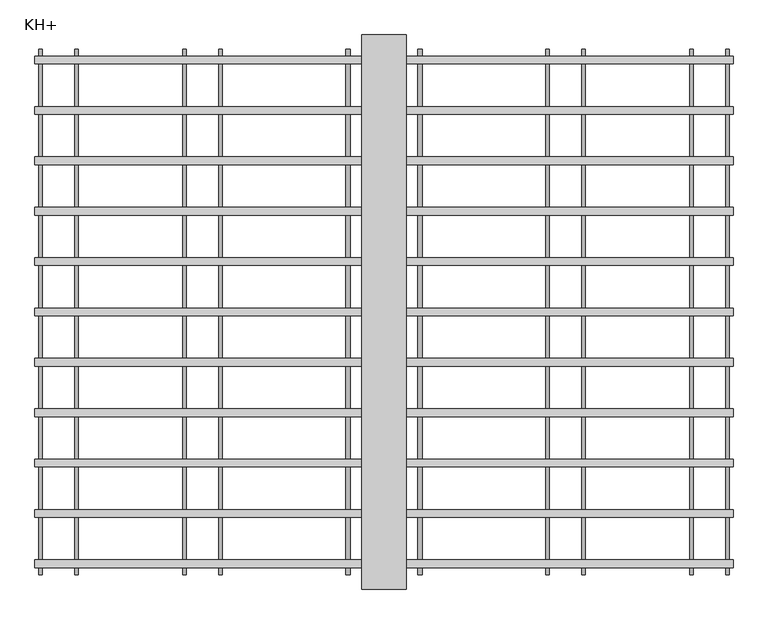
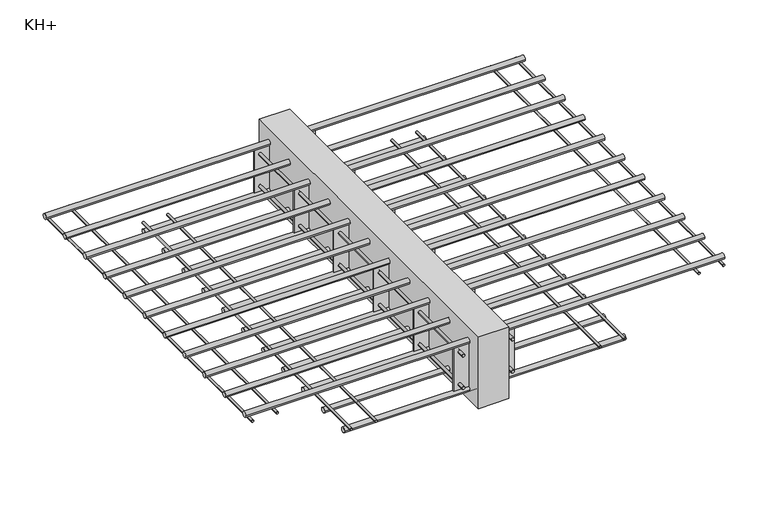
"""IFC4 building model written with IfcOpenShell, lengths in millimetres: proxy geometry, ACINOXplus_Typenreihe_K : KH+."""

import ifcopenshell
import ifcopenshell.guid

model = None  # the IFC model being written
_history = None  # IfcOwnerHistory: only IFC2X3 demands one
_inside = {}  # id of a spatial element -> (the spatial element, [elements in it])
_under = {}  # id of a project, library or spatial element -> (it, [spatial elements below it])
_declared = {}  # id of a project -> (the project, [libraries it declares])
_typed = {}  # id of a type object -> (the type object, [elements of that type])
_made_of = {}  # id of a material, layer set ... -> (it, [elements and type objects made of it])


def new_model(schema):
    """Start an empty IFC model of exactly this schema.

    Asked for "IFC4X3", IfcOpenShell would pick the latest addendum, in which some entities
    have other attributes; the version numbers below select the first issue.
    IFC2X3 requires an IfcOwnerHistory on every rooted entity: one is made here for all.
    """
    global model, _history
    if schema == "IFC4X3":
        model = ifcopenshell.file(schema_version=(4, 3, 0, 0))
    else:
        model = ifcopenshell.file(schema=schema)
    _inside.clear()
    _under.clear()
    _declared.clear()
    _typed.clear()
    _made_of.clear()
    _history = None
    if model.schema == "IFC2X3":
        org = make("IfcOrganization", Name="unknown")
        user = make(
            "IfcPersonAndOrganization",
            ThePerson=make("IfcPerson", FamilyName="unknown"),
            TheOrganization=org,
        )
        app = make(
            "IfcApplication",
            ApplicationDeveloper=org,
            Version="unknown",
            ApplicationFullName="unknown",
            ApplicationIdentifier="unknown",
        )
        _history = make(
            "IfcOwnerHistory",
            OwningUser=user,
            OwningApplication=app,
            ChangeAction="ADDED",
            CreationDate=0,
        )
    return model


def make(cls, **values):
    """One entity of the class cls with the attributes given. An attribute that is None is left unset."""
    return model.create_entity(
        cls, **{name: value for name, value in values.items() if value is not None}
    )


def rooted(cls, **values):
    """An entity with a GlobalId (a new one), such as an element, a storey or a relation."""
    return make(cls, GlobalId=ifcopenshell.guid.new(), OwnerHistory=_history, **values)


def si_unit(unit_type, name, prefix=None):
    """IfcSIUnit, for example si_unit("LENGTHUNIT", "METRE", prefix="MILLI")."""
    return make("IfcSIUnit", UnitType=unit_type, Prefix=prefix, Name=name)


def assignment(units):
    """IfcUnitAssignment: the units of a project."""
    return None if units is None else make("IfcUnitAssignment", Units=units)


def point(xyz):
    """IfcCartesianPoint."""
    return None if xyz is None else make("IfcCartesianPoint", Coordinates=xyz)


def direction(xyz):
    """IfcDirection."""
    return None if xyz is None else make("IfcDirection", DirectionRatios=xyz)


def frame(location, z_axis=None, x_axis=None):
    """IfcAxis2Placement3D, a coordinate frame: its origin and axes. An axis left out is left unset."""
    return make(
        "IfcAxis2Placement3D",
        Location=point(location),
        Axis=direction(z_axis),
        RefDirection=direction(x_axis),
    )


def frame_2d(location, x_axis=None):
    """IfcAxis2Placement2D, a coordinate frame in the plane: its origin and x axis."""
    return make(
        "IfcAxis2Placement2D", Location=point(location), RefDirection=direction(x_axis)
    )


def origin():
    """The frame at (0, 0, 0) with its axes left unset."""
    return frame((0.0, 0.0, 0.0))


def place(relative_to, where):
    """IfcLocalPlacement: puts the frame where relative to a parent placement (None: the world)."""
    return make(
        "IfcLocalPlacement", PlacementRelTo=relative_to, RelativePlacement=where
    )


def context(
    kind, dimensions, precision=None, world=None, true_north=None, identifier=None
):
    """IfcGeometricRepresentationContext, for example the 3D "Model" context."""
    return make(
        "IfcGeometricRepresentationContext",
        ContextIdentifier=identifier,
        ContextType=kind,
        CoordinateSpaceDimension=dimensions,
        Precision=precision,
        WorldCoordinateSystem=world,
        TrueNorth=true_north,
    )


def project(units=None, contexts=None):
    """IfcProject with its units and contexts."""
    return rooted(
        "IfcProject",
        Name="project",
        RepresentationContexts=contexts,
        UnitsInContext=assignment(units),
    )


def spatial(cls, under=None, at=None, **own):
    """A site, building, storey or space (cls), placed at a placement, below another one or the project."""
    s = rooted(cls, ObjectPlacement=at, **own)
    if under is not None:
        _under.setdefault(under.id(), (under, []))[1].append(s)
    return s


def polyline(points):
    """IfcPolyline through the points."""
    return make("IfcPolyline", Points=[point(p) for p in points])


def circle_curve(where, radius):
    """IfcCircle in the frame where."""
    return make("IfcCircle", Position=where, Radius=radius)


def trimmed(basis, trim1, trim2, sense, master):
    """IfcTrimmedCurve: the piece of a basis curve between two trims."""
    return make(
        "IfcTrimmedCurve",
        BasisCurve=basis,
        Trim1=trim1,
        Trim2=trim2,
        SenseAgreement=sense,
        MasterRepresentation=master,
    )


def segment(curve, same_sense, transition):
    """IfcCompositeCurveSegment."""
    return make(
        "IfcCompositeCurveSegment",
        Transition=transition,
        SameSense=same_sense,
        ParentCurve=curve,
    )


def composite_curve(segments, self_intersect=None):
    """IfcCompositeCurve: segments joined end to end."""
    return make("IfcCompositeCurve", Segments=segments, SelfIntersect=self_intersect)


def outline(outer, holes=None, kind="AREA"):
    """IfcArbitraryClosedProfileDef: a profile drawn as a closed curve; with holes, ...WithVoids."""
    if holes is None:
        return make("IfcArbitraryClosedProfileDef", ProfileType=kind, OuterCurve=outer)
    return make(
        "IfcArbitraryProfileDefWithVoids",
        ProfileType=kind,
        OuterCurve=outer,
        InnerCurves=holes,
    )


def extrude(swept, where, along, depth):
    """IfcExtrudedAreaSolid: the profile swept, set in the frame where, extruded along a direction by depth."""
    return make(
        "IfcExtrudedAreaSolid",
        SweptArea=swept,
        Position=where,
        ExtrudedDirection=direction(along),
        Depth=depth,
    )


def shape(context_of_items, identifier, shape_type, items):
    """IfcShapeRepresentation: the items that make up one representation, for example the "Body"."""
    return make(
        "IfcShapeRepresentation",
        ContextOfItems=context_of_items,
        RepresentationIdentifier=identifier,
        RepresentationType=shape_type,
        Items=items,
    )


def source(mapping_origin, context_of_items, identifier, shape_type, items):
    """IfcRepresentationMap: a shape defined once, which mapped items show again and again."""
    return make(
        "IfcRepresentationMap",
        MappingOrigin=mapping_origin,
        MappedRepresentation=shape(context_of_items, identifier, shape_type, items),
    )


def transform(
    local_origin,
    x_axis=None,
    y_axis=None,
    z_axis=None,
    scale=None,
    scale2=None,
    scale3=None,
    uniform=True,
):
    """IfcCartesianTransformationOperator3D, or its non-uniform kind. x_axis, y_axis, z_axis: its Axis1, 2, 3."""
    if uniform:
        return make(
            "IfcCartesianTransformationOperator3D",
            Axis1=direction(x_axis),
            Axis2=direction(y_axis),
            LocalOrigin=point(local_origin),
            Scale=scale,
            Axis3=direction(z_axis),
        )
    return make(
        "IfcCartesianTransformationOperator3DnonUniform",
        Axis1=direction(x_axis),
        Axis2=direction(y_axis),
        LocalOrigin=point(local_origin),
        Scale=scale,
        Axis3=direction(z_axis),
        Scale2=scale2,
        Scale3=scale3,
    )


def mapped(mapping_source, mapping_target):
    """IfcMappedItem: shows the shape of a source again, moved by a transform."""
    return make(
        "IfcMappedItem", MappingSource=mapping_source, MappingTarget=mapping_target
    )


def made_of(thing, what):
    """Note that an element or type object is made of a material, layer set ...; save() writes the relation."""
    if what is not None:
        _made_of.setdefault(what.id(), (what, []))[1].append(thing)
    return thing


def element(
    cls,
    number,
    at=None,
    inside=None,
    cuts=None,
    type_object=None,
    material=None,
    context=None,
    identifier="Body",
    shape_type=None,
    held_by="IfcProductDefinitionShape",
    body=None,
    shapes=None,
    **own,
):
    """One element of the class cls, such as IfcWall. Its Tag is "e" and its number.

    at: its placement. inside: the storey or other place that contains it. cuts: it is an
    opening in that element (IfcRelVoidsElement). A single representation is given by context,
    identifier, shape_type and body (its items); several are given by shapes. held_by: the class
    of the entity that holds the representations. save() writes the other relations.
    """
    e = rooted(cls, Tag="e%d" % number, ObjectPlacement=at, **own)
    if body is not None:
        shapes = [shape(context, identifier, shape_type, body)]
    if shapes is not None:
        e.Representation = make(held_by, Representations=shapes)
    if inside is not None:
        _inside.setdefault(inside.id(), (inside, []))[1].append(e)
    if cuts is not None:
        rooted(
            "IfcRelVoidsElement", RelatingBuildingElement=cuts, RelatedOpeningElement=e
        )
    if type_object is not None:
        _typed.setdefault(type_object.id(), (type_object, []))[1].append(e)
    return made_of(e, material)


def aggregate(whole, parts):
    """IfcRelAggregates: a whole, such as a stair, and the parts it consists of."""
    return rooted("IfcRelAggregates", RelatingObject=whole, RelatedObjects=parts)


def save(model, path):
    """Write the relations noted so far, then the file.

    IfcRelAggregates (storeys below a building ...), IfcRelContainedInSpatialStructure (elements
    in a storey), IfcRelDefinesByType, IfcRelAssociatesMaterial and IfcRelDeclares: one each for
    every whole, place, type object, material and project.
    """
    for whole, parts in _under.values():
        aggregate(whole, parts)
    for where, things in _inside.values():
        rooted(
            "IfcRelContainedInSpatialStructure",
            RelatedElements=things,
            RelatingStructure=where,
        )
    for kind, things in _typed.values():
        rooted("IfcRelDefinesByType", RelatedObjects=things, RelatingType=kind)
    for what, things in _made_of.values():
        rooted("IfcRelAssociatesMaterial", RelatedObjects=things, RelatingMaterial=what)
    for by, libraries in _declared.values():
        rooted("IfcRelDeclares", RelatingContext=by, RelatedDefinitions=libraries)
    model.write(path)


def kh_6894e9bf(model_context):
    return source(origin(), model_context, "Body", "SweptSolid", [
        extrude(outline(polyline([(40.0, 500.0), (40.0, -500.0), (-40.0, -500.0), (-40.0, 500.0), (40.0, 500.0)])), frame((0.0, 0.0, -200.0), z_axis=(0.0, 0.0, 1.0), x_axis=(1.0, 0.0, 0.0)), (0.0, 0.0, 1.0), 200.0),
        extrude(outline(polyline([(80.0, -271.2272727), (80.0, -274.2272727), (-80.0, -274.2272727), (-80.0, -271.2272727), (80.0, -271.2272727)])), frame((0.0, 0.0, -164.0), z_axis=(0.0, 0.0, 1.0), x_axis=(1.0, 0.0, 0.0)), (0.0, 0.0, 1.0), 120.0),
        extrude(outline(polyline([(80.0, -89.4090909), (80.0, -92.4090909), (-80.0, -92.4090909), (-80.0, -89.4090909), (80.0, -89.4090909)])), frame((0.0, 0.0, -164.0), z_axis=(0.0, 0.0, 1.0), x_axis=(1.0, 0.0, 0.0)), (0.0, 0.0, 1.0), 120.0),
        extrude(outline(polyline([(80.0, 92.4090909), (80.0, 89.4090909), (-80.0, 89.4090909), (-80.0, 92.4090909), (80.0, 92.4090909)])), frame((0.0, 0.0, -164.0), z_axis=(0.0, 0.0, 1.0), x_axis=(1.0, 0.0, 0.0)), (0.0, 0.0, 1.0), 120.0),
        extrude(outline(polyline([(80.0, 274.2272727), (80.0, 271.2272727), (-80.0, 271.2272727), (-80.0, 274.2272727), (80.0, 274.2272727)])), frame((0.0, 0.0, -164.0), z_axis=(0.0, 0.0, 1.0), x_axis=(1.0, 0.0, 0.0)), (0.0, 0.0, 1.0), 120.0),
        extrude(outline(polyline([(80.0, -453.0454545), (80.0, -456.0454545), (-80.0, -456.0454545), (-80.0, -453.0454545), (80.0, -453.0454545)])), frame((0.0, 0.0, -164.0), z_axis=(0.0, 0.0, 1.0), x_axis=(1.0, 0.0, 0.0)), (0.0, 0.0, 1.0), 120.0),
        extrude(outline(polyline([(80.0, 456.0454545), (80.0, 453.0454545), (-80.0, 453.0454545), (-80.0, 456.0454545), (80.0, 456.0454545)])), frame((0.0, 0.0, -164.0), z_axis=(0.0, 0.0, 1.0), x_axis=(1.0, 0.0, 0.0)), (0.0, 0.0, 1.0), 120.0),
        extrude(outline(composite_curve([segment(trimmed(circle_curve(frame_2d((-149.0, -65.0)), 4.0), [point((-149.0, -61.0))], [point((-149.0, -69.0))], False, "CARTESIAN"), True, "CONTINUOUS"), segment(trimmed(circle_curve(frame_2d((-149.0, -65.0)), 4.0), [point((-149.0, -69.0))], [point((-149.0, -61.0))], False, "CARTESIAN"), True, "CONTINUOUS")], self_intersect=False)), frame((0.0, -474.5454545, 0.0), z_axis=(0.0, 1.0, 0.0), x_axis=(0.0, 0.0, 1.0)), (0.0, 0.0, 1.0), 18.5),
        extrude(outline(composite_curve([segment(trimmed(circle_curve(frame_2d((-149.0, -65.0)), 4.0), [point((-149.0, -69.0))], [point((-149.0, -61.0))], False, "CARTESIAN"), True, "CONTINUOUS"), segment(trimmed(circle_curve(frame_2d((-149.0, -65.0)), 4.0), [point((-149.0, -61.0))], [point((-149.0, -69.0))], False, "CARTESIAN"), True, "CONTINUOUS")], self_intersect=False)), frame((0.0, -453.0454545, 0.0), z_axis=(0.0, 1.0, 0.0), x_axis=(0.0, 0.0, 1.0)), (0.0, 0.0, 1.0), 724.2727273),
        extrude(outline(composite_curve([segment(trimmed(circle_curve(frame_2d((-149.0, -65.0)), 4.0), [point((-149.0, -69.0))], [point((-149.0, -61.0))], False, "CARTESIAN"), True, "CONTINUOUS"), segment(trimmed(circle_curve(frame_2d((-149.0, -65.0)), 4.0), [point((-149.0, -61.0))], [point((-149.0, -69.0))], False, "CARTESIAN"), True, "CONTINUOUS")], self_intersect=False)), frame((0.0, 456.0454545, 0.0), z_axis=(0.0, 1.0, 0.0), x_axis=(0.0, 0.0, 1.0)), (0.0, 0.0, 1.0), 18.5),
        extrude(outline(composite_curve([segment(trimmed(circle_curve(frame_2d((-149.0, -65.0)), 4.0), [point((-149.0, -69.0))], [point((-149.0, -61.0))], False, "CARTESIAN"), True, "CONTINUOUS"), segment(trimmed(circle_curve(frame_2d((-149.0, -65.0)), 4.0), [point((-149.0, -61.0))], [point((-149.0, -69.0))], False, "CARTESIAN"), True, "CONTINUOUS")], self_intersect=False)), frame((0.0, 274.2272727, 0.0), z_axis=(0.0, 1.0, 0.0), x_axis=(0.0, 0.0, 1.0)), (0.0, 0.0, 1.0), 178.8181818),
        extrude(outline(composite_curve([segment(trimmed(circle_curve(frame_2d((-149.0, 65.0)), 4.0), [point((-149.0, 69.0))], [point((-149.0, 61.0))], False, "CARTESIAN"), True, "CONTINUOUS"), segment(trimmed(circle_curve(frame_2d((-149.0, 65.0)), 4.0), [point((-149.0, 61.0))], [point((-149.0, 69.0))], False, "CARTESIAN"), True, "CONTINUOUS")], self_intersect=False)), frame((0.0, -474.5454545, 0.0), z_axis=(0.0, 1.0, 0.0), x_axis=(0.0, 0.0, 1.0)), (0.0, 0.0, 1.0), 18.5),
        extrude(outline(composite_curve([segment(trimmed(circle_curve(frame_2d((-149.0, 65.0)), 4.0), [point((-149.0, 61.0))], [point((-149.0, 69.0))], False, "CARTESIAN"), True, "CONTINUOUS"), segment(trimmed(circle_curve(frame_2d((-149.0, 65.0)), 4.0), [point((-149.0, 69.0))], [point((-149.0, 61.0))], False, "CARTESIAN"), True, "CONTINUOUS")], self_intersect=False)), frame((0.0, -453.0454545, 0.0), z_axis=(0.0, 1.0, 0.0), x_axis=(0.0, 0.0, 1.0)), (0.0, 0.0, 1.0), 724.2727273),
        extrude(outline(composite_curve([segment(trimmed(circle_curve(frame_2d((-149.0, 65.0)), 4.0), [point((-149.0, 61.0))], [point((-149.0, 69.0))], False, "CARTESIAN"), True, "CONTINUOUS"), segment(trimmed(circle_curve(frame_2d((-149.0, 65.0)), 4.0), [point((-149.0, 69.0))], [point((-149.0, 61.0))], False, "CARTESIAN"), True, "CONTINUOUS")], self_intersect=False)), frame((0.0, 456.0454545, 0.0), z_axis=(0.0, 1.0, 0.0), x_axis=(0.0, 0.0, 1.0)), (0.0, 0.0, 1.0), 18.5),
        extrude(outline(composite_curve([segment(trimmed(circle_curve(frame_2d((-149.0, 65.0)), 4.0), [point((-149.0, 61.0))], [point((-149.0, 69.0))], False, "CARTESIAN"), True, "CONTINUOUS"), segment(trimmed(circle_curve(frame_2d((-149.0, 65.0)), 4.0), [point((-149.0, 69.0))], [point((-149.0, 61.0))], False, "CARTESIAN"), True, "CONTINUOUS")], self_intersect=False)), frame((0.0, 274.2272727, 0.0), z_axis=(0.0, 1.0, 0.0), x_axis=(0.0, 0.0, 1.0)), (0.0, 0.0, 1.0), 178.8181818),
        extrude(outline(composite_curve([segment(trimmed(circle_curve(frame_2d((-59.0, -65.0)), 4.0), [point((-59.0, -61.0))], [point((-59.0, -69.0))], False, "CARTESIAN"), True, "CONTINUOUS"), segment(trimmed(circle_curve(frame_2d((-59.0, -65.0)), 4.0), [point((-59.0, -69.0))], [point((-59.0, -61.0))], False, "CARTESIAN"), True, "CONTINUOUS")], self_intersect=False)), frame((0.0, -474.5454545, 0.0), z_axis=(0.0, 1.0, 0.0), x_axis=(0.0, 0.0, 1.0)), (0.0, 0.0, 1.0), 18.5),
        extrude(outline(composite_curve([segment(trimmed(circle_curve(frame_2d((-59.0, -65.0)), 4.0), [point((-59.0, -69.0))], [point((-59.0, -61.0))], False, "CARTESIAN"), True, "CONTINUOUS"), segment(trimmed(circle_curve(frame_2d((-59.0, -65.0)), 4.0), [point((-59.0, -61.0))], [point((-59.0, -69.0))], False, "CARTESIAN"), True, "CONTINUOUS")], self_intersect=False)), frame((0.0, -453.0454545, 0.0), z_axis=(0.0, 1.0, 0.0), x_axis=(0.0, 0.0, 1.0)), (0.0, 0.0, 1.0), 724.2727273),
        extrude(outline(composite_curve([segment(trimmed(circle_curve(frame_2d((-59.0, -65.0)), 4.0), [point((-59.0, -69.0))], [point((-59.0, -61.0))], False, "CARTESIAN"), True, "CONTINUOUS"), segment(trimmed(circle_curve(frame_2d((-59.0, -65.0)), 4.0), [point((-59.0, -61.0))], [point((-59.0, -69.0))], False, "CARTESIAN"), True, "CONTINUOUS")], self_intersect=False)), frame((0.0, 456.0454545, 0.0), z_axis=(0.0, 1.0, 0.0), x_axis=(0.0, 0.0, 1.0)), (0.0, 0.0, 1.0), 18.5),
        extrude(outline(composite_curve([segment(trimmed(circle_curve(frame_2d((-59.0, -65.0)), 4.0), [point((-59.0, -69.0))], [point((-59.0, -61.0))], False, "CARTESIAN"), True, "CONTINUOUS"), segment(trimmed(circle_curve(frame_2d((-59.0, -65.0)), 4.0), [point((-59.0, -61.0))], [point((-59.0, -69.0))], False, "CARTESIAN"), True, "CONTINUOUS")], self_intersect=False)), frame((0.0, 274.2272727, 0.0), z_axis=(0.0, 1.0, 0.0), x_axis=(0.0, 0.0, 1.0)), (0.0, 0.0, 1.0), 178.8181818),
        extrude(outline(composite_curve([segment(trimmed(circle_curve(frame_2d((-59.0, 65.0)), 4.0), [point((-59.0, 69.0))], [point((-59.0, 61.0))], False, "CARTESIAN"), True, "CONTINUOUS"), segment(trimmed(circle_curve(frame_2d((-59.0, 65.0)), 4.0), [point((-59.0, 61.0))], [point((-59.0, 69.0))], False, "CARTESIAN"), True, "CONTINUOUS")], self_intersect=False)), frame((0.0, -474.5454545, 0.0), z_axis=(0.0, 1.0, 0.0), x_axis=(0.0, 0.0, 1.0)), (0.0, 0.0, 1.0), 18.5),
        extrude(outline(composite_curve([segment(trimmed(circle_curve(frame_2d((-59.0, 65.0)), 4.0), [point((-59.0, 61.0))], [point((-59.0, 69.0))], False, "CARTESIAN"), True, "CONTINUOUS"), segment(trimmed(circle_curve(frame_2d((-59.0, 65.0)), 4.0), [point((-59.0, 69.0))], [point((-59.0, 61.0))], False, "CARTESIAN"), True, "CONTINUOUS")], self_intersect=False)), frame((0.0, -453.0454545, 0.0), z_axis=(0.0, 1.0, 0.0), x_axis=(0.0, 0.0, 1.0)), (0.0, 0.0, 1.0), 724.2727273),
        extrude(outline(composite_curve([segment(trimmed(circle_curve(frame_2d((-59.0, 65.0)), 4.0), [point((-59.0, 61.0))], [point((-59.0, 69.0))], False, "CARTESIAN"), True, "CONTINUOUS"), segment(trimmed(circle_curve(frame_2d((-59.0, 65.0)), 4.0), [point((-59.0, 69.0))], [point((-59.0, 61.0))], False, "CARTESIAN"), True, "CONTINUOUS")], self_intersect=False)), frame((0.0, 456.0454545, 0.0), z_axis=(0.0, 1.0, 0.0), x_axis=(0.0, 0.0, 1.0)), (0.0, 0.0, 1.0), 18.5),
        extrude(outline(composite_curve([segment(trimmed(circle_curve(frame_2d((-59.0, 65.0)), 4.0), [point((-59.0, 61.0))], [point((-59.0, 69.0))], False, "CARTESIAN"), True, "CONTINUOUS"), segment(trimmed(circle_curve(frame_2d((-59.0, 65.0)), 4.0), [point((-59.0, 69.0))], [point((-59.0, 61.0))], False, "CARTESIAN"), True, "CONTINUOUS")], self_intersect=False)), frame((0.0, 274.2272727, 0.0), z_axis=(0.0, 1.0, 0.0), x_axis=(0.0, 0.0, 1.0)), (0.0, 0.0, 1.0), 178.8181818),
        extrude(outline(composite_curve([segment(trimmed(circle_curve(frame_2d((272.7272727, -171.0)), 7.0), [point((265.7272727, -171.0))], [point((279.7272727, -171.0))], False, "CARTESIAN"), True, "CONTINUOUS"), segment(trimmed(circle_curve(frame_2d((272.7272727, -171.0)), 7.0), [point((279.7272727, -171.0))], [point((265.7272727, -171.0))], False, "CARTESIAN"), True, "CONTINUOUS")], self_intersect=False)), frame((-370.0, 0.0, 0.0), z_axis=(1.0, 0.0, 0.0), x_axis=(0.0, 1.0, 0.0)), (0.0, 0.0, 1.0), 740.0),
        extrude(outline(composite_curve([segment(trimmed(circle_curve(frame_2d((181.8181818, -171.0)), 7.0), [point((174.8181818, -171.0))], [point((188.8181818, -171.0))], False, "CARTESIAN"), True, "CONTINUOUS"), segment(trimmed(circle_curve(frame_2d((181.8181818, -171.0)), 7.0), [point((188.8181818, -171.0))], [point((174.8181818, -171.0))], False, "CARTESIAN"), True, "CONTINUOUS")], self_intersect=False)), frame((-370.0, 0.0, 0.0), z_axis=(1.0, 0.0, 0.0), x_axis=(0.0, 1.0, 0.0)), (0.0, 0.0, 1.0), 740.0),
        extrude(outline(composite_curve([segment(trimmed(circle_curve(frame_2d((90.9090909, -171.0)), 7.0), [point((83.9090909, -171.0))], [point((97.9090909, -171.0))], False, "CARTESIAN"), True, "CONTINUOUS"), segment(trimmed(circle_curve(frame_2d((90.9090909, -171.0)), 7.0), [point((97.9090909, -171.0))], [point((83.9090909, -171.0))], False, "CARTESIAN"), True, "CONTINUOUS")], self_intersect=False)), frame((-370.0, 0.0, 0.0), z_axis=(1.0, 0.0, 0.0), x_axis=(0.0, 1.0, 0.0)), (0.0, 0.0, 1.0), 740.0),
        extrude(outline(composite_curve([segment(trimmed(circle_curve(frame_2d((0.0, -171.0)), 7.0), [point((-7.0, -171.0))], [point((7.0, -171.0))], False, "CARTESIAN"), True, "CONTINUOUS"), segment(trimmed(circle_curve(frame_2d((0.0, -171.0)), 7.0), [point((7.0, -171.0))], [point((-7.0, -171.0))], False, "CARTESIAN"), True, "CONTINUOUS")], self_intersect=False)), frame((-370.0, 0.0, 0.0), z_axis=(1.0, 0.0, 0.0), x_axis=(0.0, 1.0, 0.0)), (0.0, 0.0, 1.0), 740.0),
        extrude(outline(composite_curve([segment(trimmed(circle_curve(frame_2d((-90.9090909, -171.0)), 7.0), [point((-97.9090909, -171.0))], [point((-83.9090909, -171.0))], False, "CARTESIAN"), True, "CONTINUOUS"), segment(trimmed(circle_curve(frame_2d((-90.9090909, -171.0)), 7.0), [point((-83.9090909, -171.0))], [point((-97.9090909, -171.0))], False, "CARTESIAN"), True, "CONTINUOUS")], self_intersect=False)), frame((-370.0, 0.0, 0.0), z_axis=(1.0, 0.0, 0.0), x_axis=(0.0, 1.0, 0.0)), (0.0, 0.0, 1.0), 740.0),
        extrude(outline(composite_curve([segment(trimmed(circle_curve(frame_2d((-181.8181818, -171.0)), 7.0), [point((-188.8181818, -171.0))], [point((-174.8181818, -171.0))], False, "CARTESIAN"), True, "CONTINUOUS"), segment(trimmed(circle_curve(frame_2d((-181.8181818, -171.0)), 7.0), [point((-174.8181818, -171.0))], [point((-188.8181818, -171.0))], False, "CARTESIAN"), True, "CONTINUOUS")], self_intersect=False)), frame((-370.0, 0.0, 0.0), z_axis=(1.0, 0.0, 0.0), x_axis=(0.0, 1.0, 0.0)), (0.0, 0.0, 1.0), 740.0),
        extrude(outline(composite_curve([segment(trimmed(circle_curve(frame_2d((-272.7272727, -171.0)), 7.0), [point((-279.7272727, -171.0))], [point((-265.7272727, -171.0))], False, "CARTESIAN"), True, "CONTINUOUS"), segment(trimmed(circle_curve(frame_2d((-272.7272727, -171.0)), 7.0), [point((-265.7272727, -171.0))], [point((-279.7272727, -171.0))], False, "CARTESIAN"), True, "CONTINUOUS")], self_intersect=False)), frame((-370.0, 0.0, 0.0), z_axis=(1.0, 0.0, 0.0), x_axis=(0.0, 1.0, 0.0)), (0.0, 0.0, 1.0), 740.0),
        extrude(outline(composite_curve([segment(trimmed(circle_curve(frame_2d((363.6363636, -171.0)), 7.0), [point((356.6363636, -171.0))], [point((370.6363636, -171.0))], False, "CARTESIAN"), True, "CONTINUOUS"), segment(trimmed(circle_curve(frame_2d((363.6363636, -171.0)), 7.0), [point((370.6363636, -171.0))], [point((356.6363636, -171.0))], False, "CARTESIAN"), True, "CONTINUOUS")], self_intersect=False)), frame((-370.0, 0.0, 0.0), z_axis=(1.0, 0.0, 0.0), x_axis=(0.0, 1.0, 0.0)), (0.0, 0.0, 1.0), 740.0),
        extrude(outline(composite_curve([segment(trimmed(circle_curve(frame_2d((454.5454545, -171.0)), 7.0), [point((447.5454545, -171.0))], [point((461.5454545, -171.0))], False, "CARTESIAN"), True, "CONTINUOUS"), segment(trimmed(circle_curve(frame_2d((454.5454545, -171.0)), 7.0), [point((461.5454545, -171.0))], [point((447.5454545, -171.0))], False, "CARTESIAN"), True, "CONTINUOUS")], self_intersect=False)), frame((-370.0, 0.0, 0.0), z_axis=(1.0, 0.0, 0.0), x_axis=(0.0, 1.0, 0.0)), (0.0, 0.0, 1.0), 740.0),
        extrude(outline(composite_curve([segment(trimmed(circle_curve(frame_2d((-363.6363636, -171.0)), 7.0), [point((-370.6363636, -171.0))], [point((-356.6363636, -171.0))], False, "CARTESIAN"), True, "CONTINUOUS"), segment(trimmed(circle_curve(frame_2d((-363.6363636, -171.0)), 7.0), [point((-356.6363636, -171.0))], [point((-370.6363636, -171.0))], False, "CARTESIAN"), True, "CONTINUOUS")], self_intersect=False)), frame((-370.0, 0.0, 0.0), z_axis=(1.0, 0.0, 0.0), x_axis=(0.0, 1.0, 0.0)), (0.0, 0.0, 1.0), 740.0),
        extrude(outline(composite_curve([segment(trimmed(circle_curve(frame_2d((-454.5454545, -171.0)), 7.0), [point((-461.5454545, -171.0))], [point((-447.5454545, -171.0))], False, "CARTESIAN"), True, "CONTINUOUS"), segment(trimmed(circle_curve(frame_2d((-454.5454545, -171.0)), 7.0), [point((-447.5454545, -171.0))], [point((-461.5454545, -171.0))], False, "CARTESIAN"), True, "CONTINUOUS")], self_intersect=False)), frame((-370.0, 0.0, 0.0), z_axis=(1.0, 0.0, 0.0), x_axis=(0.0, 1.0, 0.0)), (0.0, 0.0, 1.0), 740.0),
        extrude(outline(composite_curve([segment(trimmed(circle_curve(frame_2d((272.7272727, -37.0)), 7.0), [point((265.7272727, -37.0))], [point((279.7272727, -37.0))], False, "CARTESIAN"), True, "CONTINUOUS"), segment(trimmed(circle_curve(frame_2d((272.7272727, -37.0)), 7.0), [point((279.7272727, -37.0))], [point((265.7272727, -37.0))], False, "CARTESIAN"), True, "CONTINUOUS")], self_intersect=False)), frame((-630.0, 0.0, 0.0), z_axis=(1.0, 0.0, 0.0), x_axis=(0.0, 1.0, 0.0)), (0.0, 0.0, 1.0), 1260.0),
        extrude(outline(composite_curve([segment(trimmed(circle_curve(frame_2d((181.8181818, -37.0)), 7.0), [point((174.8181818, -37.0))], [point((188.8181818, -37.0))], False, "CARTESIAN"), True, "CONTINUOUS"), segment(trimmed(circle_curve(frame_2d((181.8181818, -37.0)), 7.0), [point((188.8181818, -37.0))], [point((174.8181818, -37.0))], False, "CARTESIAN"), True, "CONTINUOUS")], self_intersect=False)), frame((-630.0, 0.0, 0.0), z_axis=(1.0, 0.0, 0.0), x_axis=(0.0, 1.0, 0.0)), (0.0, 0.0, 1.0), 1260.0),
        extrude(outline(composite_curve([segment(trimmed(circle_curve(frame_2d((90.9090909, -37.0)), 7.0), [point((83.9090909, -37.0))], [point((97.9090909, -37.0))], False, "CARTESIAN"), True, "CONTINUOUS"), segment(trimmed(circle_curve(frame_2d((90.9090909, -37.0)), 7.0), [point((97.9090909, -37.0))], [point((83.9090909, -37.0))], False, "CARTESIAN"), True, "CONTINUOUS")], self_intersect=False)), frame((-630.0, 0.0, 0.0), z_axis=(1.0, 0.0, 0.0), x_axis=(0.0, 1.0, 0.0)), (0.0, 0.0, 1.0), 1260.0),
        extrude(outline(composite_curve([segment(trimmed(circle_curve(frame_2d((0.0, -37.0)), 7.0), [point((-7.0, -37.0))], [point((7.0, -37.0))], False, "CARTESIAN"), True, "CONTINUOUS"), segment(trimmed(circle_curve(frame_2d((0.0, -37.0)), 7.0), [point((7.0, -37.0))], [point((-7.0, -37.0))], False, "CARTESIAN"), True, "CONTINUOUS")], self_intersect=False)), frame((-630.0, 0.0, 0.0), z_axis=(1.0, 0.0, 0.0), x_axis=(0.0, 1.0, 0.0)), (0.0, 0.0, 1.0), 1260.0),
        extrude(outline(composite_curve([segment(trimmed(circle_curve(frame_2d((-90.9090909, -37.0)), 7.0), [point((-97.9090909, -37.0))], [point((-83.9090909, -37.0))], False, "CARTESIAN"), True, "CONTINUOUS"), segment(trimmed(circle_curve(frame_2d((-90.9090909, -37.0)), 7.0), [point((-83.9090909, -37.0))], [point((-97.9090909, -37.0))], False, "CARTESIAN"), True, "CONTINUOUS")], self_intersect=False)), frame((-630.0, 0.0, 0.0), z_axis=(1.0, 0.0, 0.0), x_axis=(0.0, 1.0, 0.0)), (0.0, 0.0, 1.0), 1260.0),
        extrude(outline(composite_curve([segment(trimmed(circle_curve(frame_2d((-181.8181818, -37.0)), 7.0), [point((-188.8181818, -37.0))], [point((-174.8181818, -37.0))], False, "CARTESIAN"), True, "CONTINUOUS"), segment(trimmed(circle_curve(frame_2d((-181.8181818, -37.0)), 7.0), [point((-174.8181818, -37.0))], [point((-188.8181818, -37.0))], False, "CARTESIAN"), True, "CONTINUOUS")], self_intersect=False)), frame((-630.0, 0.0, 0.0), z_axis=(1.0, 0.0, 0.0), x_axis=(0.0, 1.0, 0.0)), (0.0, 0.0, 1.0), 1260.0),
        extrude(outline(composite_curve([segment(trimmed(circle_curve(frame_2d((-272.7272727, -37.0)), 7.0), [point((-279.7272727, -37.0))], [point((-265.7272727, -37.0))], False, "CARTESIAN"), True, "CONTINUOUS"), segment(trimmed(circle_curve(frame_2d((-272.7272727, -37.0)), 7.0), [point((-265.7272727, -37.0))], [point((-279.7272727, -37.0))], False, "CARTESIAN"), True, "CONTINUOUS")], self_intersect=False)), frame((-630.0, 0.0, 0.0), z_axis=(1.0, 0.0, 0.0), x_axis=(0.0, 1.0, 0.0)), (0.0, 0.0, 1.0), 1260.0),
        extrude(outline(composite_curve([segment(trimmed(circle_curve(frame_2d((363.6363636, -37.0)), 7.0), [point((356.6363636, -37.0))], [point((370.6363636, -37.0))], False, "CARTESIAN"), True, "CONTINUOUS"), segment(trimmed(circle_curve(frame_2d((363.6363636, -37.0)), 7.0), [point((370.6363636, -37.0))], [point((356.6363636, -37.0))], False, "CARTESIAN"), True, "CONTINUOUS")], self_intersect=False)), frame((-630.0, 0.0, 0.0), z_axis=(1.0, 0.0, 0.0), x_axis=(0.0, 1.0, 0.0)), (0.0, 0.0, 1.0), 1260.0),
        extrude(outline(composite_curve([segment(trimmed(circle_curve(frame_2d((454.5454545, -37.0)), 7.0), [point((447.5454545, -37.0))], [point((461.5454545, -37.0))], False, "CARTESIAN"), True, "CONTINUOUS"), segment(trimmed(circle_curve(frame_2d((454.5454545, -37.0)), 7.0), [point((461.5454545, -37.0))], [point((447.5454545, -37.0))], False, "CARTESIAN"), True, "CONTINUOUS")], self_intersect=False)), frame((-630.0, 0.0, 0.0), z_axis=(1.0, 0.0, 0.0), x_axis=(0.0, 1.0, 0.0)), (0.0, 0.0, 1.0), 1260.0),
        extrude(outline(composite_curve([segment(trimmed(circle_curve(frame_2d((-363.6363636, -37.0)), 7.0), [point((-370.6363636, -37.0))], [point((-356.6363636, -37.0))], False, "CARTESIAN"), True, "CONTINUOUS"), segment(trimmed(circle_curve(frame_2d((-363.6363636, -37.0)), 7.0), [point((-356.6363636, -37.0))], [point((-370.6363636, -37.0))], False, "CARTESIAN"), True, "CONTINUOUS")], self_intersect=False)), frame((-630.0, 0.0, 0.0), z_axis=(1.0, 0.0, 0.0), x_axis=(0.0, 1.0, 0.0)), (0.0, 0.0, 1.0), 1260.0),
        extrude(outline(composite_curve([segment(trimmed(circle_curve(frame_2d((-454.5454545, -37.0)), 7.0), [point((-461.5454545, -37.0))], [point((-447.5454545, -37.0))], False, "CARTESIAN"), True, "CONTINUOUS"), segment(trimmed(circle_curve(frame_2d((-454.5454545, -37.0)), 7.0), [point((-447.5454545, -37.0))], [point((-461.5454545, -37.0))], False, "CARTESIAN"), True, "CONTINUOUS")], self_intersect=False)), frame((-630.0, 0.0, 0.0), z_axis=(1.0, 0.0, 0.0), x_axis=(0.0, 1.0, 0.0)), (0.0, 0.0, 1.0), 1260.0),
        extrude(outline(composite_curve([segment(trimmed(circle_curve(frame_2d((-161.0, -360.0)), 3.0), [point((-161.0, -357.0))], [point((-161.0, -363.0))], False, "CARTESIAN"), True, "CONTINUOUS"), segment(trimmed(circle_curve(frame_2d((-161.0, -360.0)), 3.0), [point((-161.0, -363.0))], [point((-161.0, -357.0))], False, "CARTESIAN"), True, "CONTINUOUS")], self_intersect=False)), frame((0.0, -474.5454545, 0.0), z_axis=(0.0, 1.0, 0.0), x_axis=(0.0, 0.0, 1.0)), (0.0, 0.0, 1.0), 949.0909091),
        extrude(outline(composite_curve([segment(trimmed(circle_curve(frame_2d((-161.0, -295.0)), 3.0), [point((-161.0, -292.0))], [point((-161.0, -298.0))], False, "CARTESIAN"), True, "CONTINUOUS"), segment(trimmed(circle_curve(frame_2d((-161.0, -295.0)), 3.0), [point((-161.0, -298.0))], [point((-161.0, -292.0))], False, "CARTESIAN"), True, "CONTINUOUS")], self_intersect=False)), frame((0.0, -474.5454545, 0.0), z_axis=(0.0, 1.0, 0.0), x_axis=(0.0, 0.0, 1.0)), (0.0, 0.0, 1.0), 949.0909091),
        extrude(outline(composite_curve([segment(trimmed(circle_curve(frame_2d((-161.0, 295.0)), 3.0), [point((-161.0, 298.0))], [point((-161.0, 292.0))], False, "CARTESIAN"), True, "CONTINUOUS"), segment(trimmed(circle_curve(frame_2d((-161.0, 295.0)), 3.0), [point((-161.0, 292.0))], [point((-161.0, 298.0))], False, "CARTESIAN"), True, "CONTINUOUS")], self_intersect=False)), frame((0.0, -474.5454545, 0.0), z_axis=(0.0, 1.0, 0.0), x_axis=(0.0, 0.0, 1.0)), (0.0, 0.0, 1.0), 949.0909091),
        extrude(outline(composite_curve([segment(trimmed(circle_curve(frame_2d((-161.0, 360.0)), 3.0), [point((-161.0, 363.0))], [point((-161.0, 357.0))], False, "CARTESIAN"), True, "CONTINUOUS"), segment(trimmed(circle_curve(frame_2d((-161.0, 360.0)), 3.0), [point((-161.0, 357.0))], [point((-161.0, 363.0))], False, "CARTESIAN"), True, "CONTINUOUS")], self_intersect=False)), frame((0.0, -474.5454545, 0.0), z_axis=(0.0, 1.0, 0.0), x_axis=(0.0, 0.0, 1.0)), (0.0, 0.0, 1.0), 949.0909091),
        extrude(outline(composite_curve([segment(trimmed(circle_curve(frame_2d((-47.0, 555.0)), 3.0), [point((-47.0, 558.0))], [point((-47.0, 552.0))], False, "CARTESIAN"), True, "CONTINUOUS"), segment(trimmed(circle_curve(frame_2d((-47.0, 555.0)), 3.0), [point((-47.0, 552.0))], [point((-47.0, 558.0))], False, "CARTESIAN"), True, "CONTINUOUS")], self_intersect=False)), frame((0.0, -474.5454545, 0.0), z_axis=(0.0, 1.0, 0.0), x_axis=(0.0, 0.0, 1.0)), (0.0, 0.0, 1.0), 949.0909091),
        extrude(outline(composite_curve([segment(trimmed(circle_curve(frame_2d((-47.0, 620.0)), 3.0), [point((-47.0, 623.0))], [point((-47.0, 617.0))], False, "CARTESIAN"), True, "CONTINUOUS"), segment(trimmed(circle_curve(frame_2d((-47.0, 620.0)), 3.0), [point((-47.0, 617.0))], [point((-47.0, 623.0))], False, "CARTESIAN"), True, "CONTINUOUS")], self_intersect=False)), frame((0.0, -474.5454545, 0.0), z_axis=(0.0, 1.0, 0.0), x_axis=(0.0, 0.0, 1.0)), (0.0, 0.0, 1.0), 949.0909091),
        extrude(outline(composite_curve([segment(trimmed(circle_curve(frame_2d((-47.0, -620.0)), 3.0), [point((-47.0, -617.0))], [point((-47.0, -623.0))], False, "CARTESIAN"), True, "CONTINUOUS"), segment(trimmed(circle_curve(frame_2d((-47.0, -620.0)), 3.0), [point((-47.0, -623.0))], [point((-47.0, -617.0))], False, "CARTESIAN"), True, "CONTINUOUS")], self_intersect=False)), frame((0.0, -474.5454545, 0.0), z_axis=(0.0, 1.0, 0.0), x_axis=(0.0, 0.0, 1.0)), (0.0, 0.0, 1.0), 949.0909091),
        extrude(outline(composite_curve([segment(trimmed(circle_curve(frame_2d((-47.0, -555.0)), 3.0), [point((-47.0, -552.0))], [point((-47.0, -558.0))], False, "CARTESIAN"), True, "CONTINUOUS"), segment(trimmed(circle_curve(frame_2d((-47.0, -555.0)), 3.0), [point((-47.0, -558.0))], [point((-47.0, -552.0))], False, "CARTESIAN"), True, "CONTINUOUS")], self_intersect=False)), frame((0.0, -474.5454545, 0.0), z_axis=(0.0, 1.0, 0.0), x_axis=(0.0, 0.0, 1.0)), (0.0, 0.0, 1.0), 949.0909091),
    ])


if __name__ == "__main__":
    model = new_model("IFC4")
    model_context = context("Model", 3, world=origin())
    ifc_project = project(units=[si_unit("LENGTHUNIT", "METRE", prefix="MILLI")], contexts=[model_context])
    site = spatial("IfcSite", under=ifc_project)
    building = spatial("IfcBuilding", under=site)
    placement = place(None, origin())
    kh_shape = kh_6894e9bf(model_context)
    element("IfcBuildingElementProxy", 1, Name="ACINOXplus_Typenreihe_K : KH+", ObjectType="ACINOXplus_Typenreihe_K : KH+", at=placement, inside=building, context=model_context, shape_type="MappedRepresentation", body=[
        mapped(kh_shape, transform((0.0, 0.0, 0.0), x_axis=(1.0, 0.0, 0.0), y_axis=(0.0, 1.0, 0.0), z_axis=(0.0, 0.0, 1.0))),
    ])
    save(model, "model.ifc")
